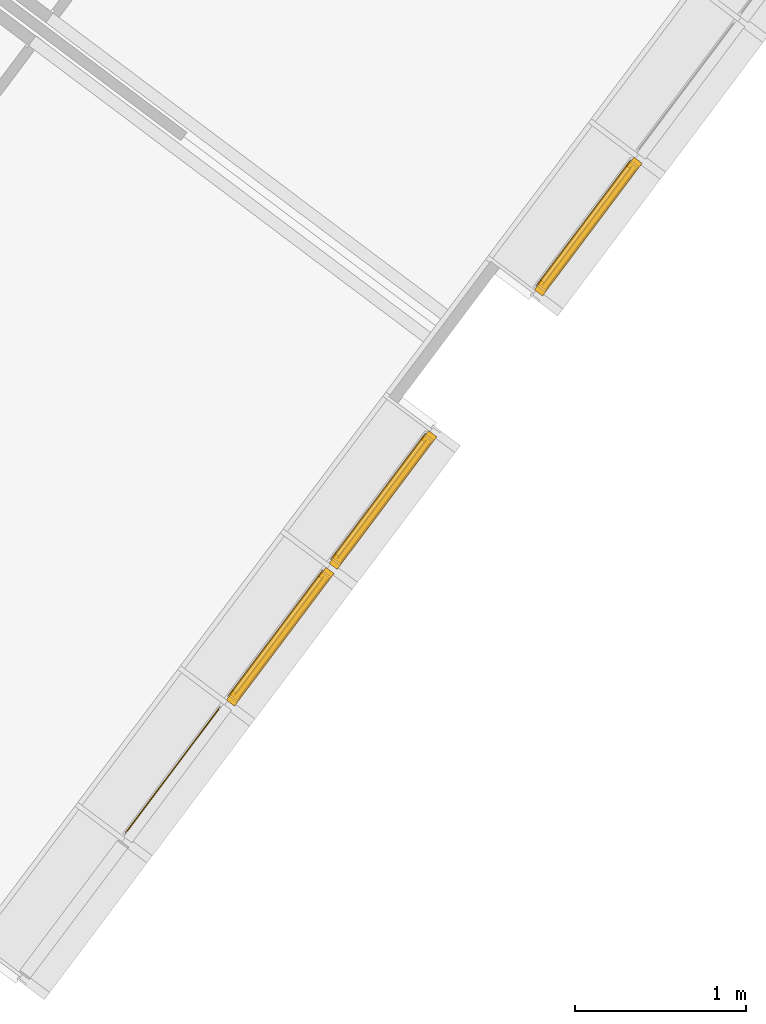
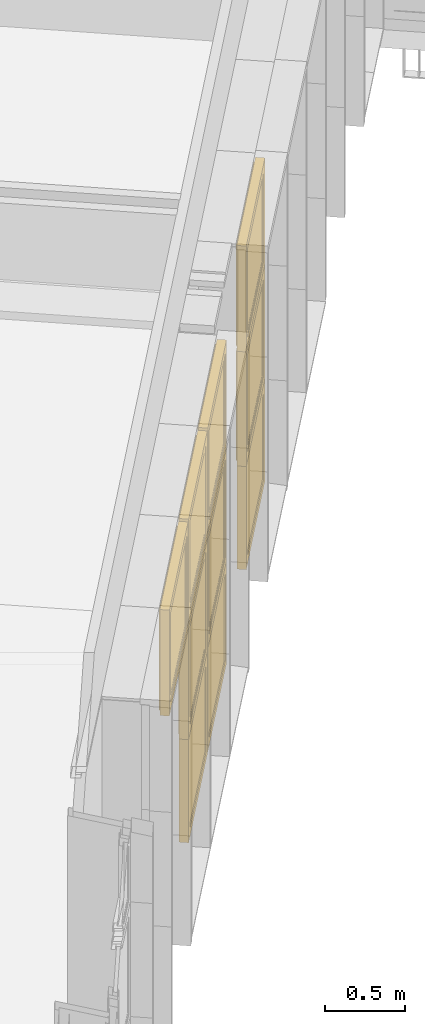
# One storey, part 188 of 243: 10 windows, 1 element without a shape of its own.
"""IFC2X3 building model written with IfcOpenShell, lengths in metres."""

from ifc_helpers import new_model, entity, si_unit, converted_unit, derived_unit, direction, frame, origin, place, context, subcontext, project, spatial, faceted_brep, source, transform, mapped, material, material_list, type_object, type_shapes, element, aggregate, save


model = new_model("IFC2X3")

# Units and contexts
model_context = context("Model", 3, precision=1e-05, world=origin(), true_north=direction((6.123031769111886e-17, 1.0)))
body_context = subcontext(model_context, "Body", "Model", "MODEL_VIEW")
ifc_project = project(units=[si_unit("LENGTHUNIT", "METRE"), si_unit("AREAUNIT", "SQUARE_METRE"), si_unit("VOLUMEUNIT", "CUBIC_METRE"), converted_unit("PLANEANGLEUNIT", "DEGREE", entity("IfcRatioMeasure", 0.017453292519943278), si_unit("PLANEANGLEUNIT", "RADIAN"), dimensions=[0, 0, 0, 0, 0, 0, 0]), si_unit("MASSUNIT", "GRAM", prefix="KILO"), derived_unit("MASSDENSITYUNIT", [(si_unit("MASSUNIT", "GRAM", prefix="KILO"), 1), (si_unit("LENGTHUNIT", "METRE"), -3)]), derived_unit("IONCONCENTRATIONUNIT", [(si_unit("MASSUNIT", "GRAM", prefix="KILO"), 1), (si_unit("LENGTHUNIT", "METRE"), -3)]), derived_unit("MOMENTOFINERTIAUNIT", [(si_unit("LENGTHUNIT", "METRE"), 4)]), si_unit("TIMEUNIT", "SECOND"), si_unit("FREQUENCYUNIT", "HERTZ"), si_unit("THERMODYNAMICTEMPERATUREUNIT", "DEGREE_CELSIUS"), derived_unit("THERMALTRANSMITTANCEUNIT", [(si_unit("MASSUNIT", "GRAM", prefix="KILO"), 1), (si_unit("THERMODYNAMICTEMPERATUREUNIT", "KELVIN"), -1), (si_unit("TIMEUNIT", "SECOND"), -3)]), derived_unit("THERMALCONDUCTANCEUNIT", [(si_unit("MASSUNIT", "GRAM", prefix="KILO"), 1), (si_unit("THERMODYNAMICTEMPERATUREUNIT", "KELVIN"), -1), (si_unit("TIMEUNIT", "SECOND"), -3), (si_unit("LENGTHUNIT", "METRE"), 1)]), derived_unit("VOLUMETRICFLOWRATEUNIT", [(si_unit("LENGTHUNIT", "METRE"), 3), (si_unit("TIMEUNIT", "SECOND"), -1)]), derived_unit("MASSFLOWRATEUNIT", [(si_unit("MASSUNIT", "GRAM", prefix="KILO"), 1), (si_unit("TIMEUNIT", "SECOND"), -1)]), derived_unit("ROTATIONALFREQUENCYUNIT", [(si_unit("TIMEUNIT", "SECOND"), -1)]), si_unit("ELECTRICCURRENTUNIT", "AMPERE"), si_unit("ELECTRICVOLTAGEUNIT", "VOLT"), si_unit("POWERUNIT", "WATT"), si_unit("FORCEUNIT", "NEWTON", prefix="KILO"), si_unit("ILLUMINANCEUNIT", "LUX"), si_unit("LUMINOUSFLUXUNIT", "LUMEN"), si_unit("LUMINOUSINTENSITYUNIT", "CANDELA"), derived_unit("USERDEFINED", [(si_unit("MASSUNIT", "GRAM", prefix="KILO"), -1), (si_unit("LENGTHUNIT", "METRE"), -2), (si_unit("TIMEUNIT", "SECOND"), 3), (si_unit("LUMINOUSFLUXUNIT", "LUMEN"), 1)]), derived_unit("USERDEFINED", [(si_unit("MASSUNIT", "GRAM", prefix="KILO"), 1), (si_unit("TIMEUNIT", "SECOND"), -3), (si_unit("LENGTHUNIT", "METRE"), 3), (si_unit("ELECTRICCURRENTUNIT", "AMPERE"), -2)]), derived_unit("SOUNDPOWERUNIT", [(si_unit("MASSUNIT", "GRAM", prefix="KILO"), 1), (si_unit("TIMEUNIT", "SECOND"), -3), (si_unit("LENGTHUNIT", "METRE"), 2)]), derived_unit("SOUNDPRESSUREUNIT", [(si_unit("MASSUNIT", "GRAM", prefix="KILO"), 1), (si_unit("LENGTHUNIT", "METRE"), -1), (si_unit("TIMEUNIT", "SECOND"), -2)]), derived_unit("LINEARVELOCITYUNIT", [(si_unit("LENGTHUNIT", "METRE"), 1), (si_unit("TIMEUNIT", "SECOND"), -1)]), si_unit("PRESSUREUNIT", "PASCAL"), derived_unit("USERDEFINED", [(si_unit("MASSUNIT", "GRAM", prefix="KILO"), 1), (si_unit("LENGTHUNIT", "METRE"), -2), (si_unit("TIMEUNIT", "SECOND"), -2)]), derived_unit("LINEARFORCEUNIT", [(si_unit("MASSUNIT", "GRAM", prefix="KILO"), 1), (si_unit("TIMEUNIT", "SECOND"), -2)]), derived_unit("PLANARFORCEUNIT", [(si_unit("MASSUNIT", "GRAM", prefix="KILO"), 1), (si_unit("LENGTHUNIT", "METRE"), -1), (si_unit("TIMEUNIT", "SECOND"), -2)]), derived_unit("SPECIFICHEATCAPACITYUNIT", [(si_unit("THERMODYNAMICTEMPERATUREUNIT", "KELVIN"), -1), (si_unit("LENGTHUNIT", "METRE"), 2), (si_unit("TIMEUNIT", "SECOND"), -2)]), derived_unit("HEATINGVALUEUNIT", [(si_unit("LENGTHUNIT", "METRE"), 2), (si_unit("TIMEUNIT", "SECOND"), -2)]), derived_unit("VAPORPERMEABILITYUNIT", [(si_unit("LENGTHUNIT", "METRE"), -1), (si_unit("TIMEUNIT", "SECOND"), 1)]), derived_unit("DYNAMICVISCOSITYUNIT", [(si_unit("MASSUNIT", "GRAM", prefix="KILO"), 1), (si_unit("TIMEUNIT", "SECOND"), -1), (si_unit("LENGTHUNIT", "METRE"), -1)]), derived_unit("THERMALEXPANSIONCOEFFICIENTUNIT", [(si_unit("THERMODYNAMICTEMPERATUREUNIT", "KELVIN"), -1)]), derived_unit("MODULUSOFELASTICITYUNIT", [(si_unit("MASSUNIT", "GRAM", prefix="KILO"), 1), (si_unit("LENGTHUNIT", "METRE"), -1), (si_unit("TIMEUNIT", "SECOND"), -2)]), derived_unit("ISOTHERMALMOISTURECAPACITYUNIT", [(si_unit("LENGTHUNIT", "METRE"), 3), (si_unit("MASSUNIT", "GRAM", prefix="KILO"), -1)]), derived_unit("MOISTUREDIFFUSIVITYUNIT", [(si_unit("TIMEUNIT", "SECOND"), -1), (si_unit("LENGTHUNIT", "METRE"), 2)])], contexts=[model_context])

# Site, building, storey
site_placement = place(None, frame((0.0, 0.0, 235.0), z_axis=(0.0, 0.0, 1.0), x_axis=(-0.7996477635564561, 0.6004693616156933, 0.0)))
site = spatial("IfcSite", under=ifc_project, at=site_placement, Name="Default", CompositionType="ELEMENT")
building_placement = place(site_placement, origin())
building = spatial("IfcBuilding", under=site, at=building_placement, CompositionType="ELEMENT")
storey_placement = place(building_placement, origin())
storey = spatial("IfcBuildingStorey", under=building, at=storey_placement, Name="P0- Escola", CompositionType="ELEMENT", Elevation=0.0)

# Curtain wall, windows
curtain_wall_type = type_object("IfcCurtainWallType", Name="Muro cortina:MC- EXT- MC2", PredefinedType="NOTDEFINED")
curtain_wall_placement = place(storey_placement, origin())
curtain_wall = element("IfcCurtainWall", 1, at=curtain_wall_placement, inside=storey, type_object=curtain_wall_type, Name="Muro cortina:MC- EXT- MC2", ObjectType="Muro cortina:MC- EXT- MC2")
ifc_material_1 = material(Name="_Vidre")
ifc_material_2 = material(Name="_Alumini- T1- Perfil")
ifc_material_list = material_list([ifc_material_1, ifc_material_2])
window_style_1 = type_object("IfcWindowStyle", Name="MC- Alu- Conjunt vidre fix- 62x60 cm:MC- Alu- Conjunt vidre fix- 62x60 cm", ConstructionType="NOTDEFINED", OperationType="NOTDEFINED", ParameterTakesPrecedence=False, Sizeable=False, material=ifc_material_list)
shared_shape_1 = source(origin(), body_context, "Body", "Brep", [
    faceted_brep([(0.4361932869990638, -0.007600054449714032, 0.048806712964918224), (0.4361932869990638, -0.03160022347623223, 0.048806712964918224), (-0.4361932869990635, -0.03160022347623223, 0.048806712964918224), (-0.4361932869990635, -0.007600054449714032, 0.048806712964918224), (0.4361932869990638, -0.007600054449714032, 0.7387000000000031), (-0.4361932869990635, -0.007600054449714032, 0.7387000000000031), (-0.4361932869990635, -0.03160022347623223, 0.7387000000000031), (0.4361932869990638, -0.03160022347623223, 0.7387000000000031)], [[[0, 1, 2, 3]], [[4, 0, 3, 5]], [[5, 3, 2, 6]], [[6, 2, 1, 7]], [[7, 1, 0, 4]], [[4, 5, 6, 7]]]),
    faceted_brep([(0.48499999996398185, -0.05999999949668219, 0.7877000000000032), (0.48499999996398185, -0.05999999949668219, 0.0), (0.48499999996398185, 0.0, 0.0), (0.48499999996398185, 0.0, 0.787700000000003), (-0.48499999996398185, 0.0, 0.7877000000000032), (-0.48499999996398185, 0.0, 0.0), (0.4221931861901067, 0.0, 0.7248931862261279), (-0.42219318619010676, 0.0, 0.724893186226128), (-0.4221931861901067, 0.0, 0.0628068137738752), (0.4221931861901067, 0.0, 0.06280681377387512), (-0.48499999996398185, -0.05999999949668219, 0.0), (-0.48499999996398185, -0.05999999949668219, 0.7877000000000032), (-0.42219603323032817, -0.05999999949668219, 0.7248960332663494), (0.42219603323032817, -0.05999999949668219, 0.7248960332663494), (0.42219603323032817, -0.05999999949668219, 0.0628039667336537), (-0.42219603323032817, -0.05999999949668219, 0.0628039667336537), (0.4221960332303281, -0.03160022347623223, 0.7248960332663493), (0.42219603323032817, -0.03160022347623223, 0.0628039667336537), (-0.42219603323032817, -0.03160022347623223, 0.06280396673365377), (-0.42219603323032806, -0.03160022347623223, 0.7248960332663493), (-0.43619328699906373, -0.03160022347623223, 0.738893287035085), (0.43619328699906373, -0.03160022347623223, 0.738893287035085), (0.43619328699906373, -0.03160022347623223, 0.048806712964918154), (-0.43619328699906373, -0.03160022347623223, 0.04880671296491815), (0.43619328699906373, -0.007600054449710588, 0.738893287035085), (0.43619328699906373, -0.007600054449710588, 0.04880671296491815), (-0.43619328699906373, -0.007600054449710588, 0.048806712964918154), (-0.43619328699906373, -0.007600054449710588, 0.738893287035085), (-0.42219318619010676, -0.007600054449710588, 0.724893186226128), (0.42219318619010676, -0.007600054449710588, 0.724893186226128), (0.42219318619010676, -0.007600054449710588, 0.06280681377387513), (-0.42219318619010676, -0.007600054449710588, 0.06280681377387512)], [[[0, 1, 2, 3]], [[4, 3, 2, 5], [6, 7, 8, 9]], [[1, 10, 5, 2]], [[0, 11, 10, 1], [12, 13, 14, 15]], [[16, 17, 14, 13]], [[17, 18, 15, 14]], [[16, 19, 18, 17], [20, 21, 22, 23]], [[24, 25, 22, 21]], [[25, 26, 23, 22]], [[24, 27, 26, 25], [28, 29, 30, 31]], [[6, 9, 30, 29]], [[9, 8, 31, 30]], [[10, 11, 4, 5]], [[18, 19, 12, 15]], [[26, 27, 20, 23]], [[8, 7, 28, 31]], [[11, 0, 3, 4]], [[19, 16, 13, 12]], [[27, 24, 21, 20]], [[7, 6, 29, 28]]], outer=[[True], [True, False], [True], [True, False], [True], [True], [False, True], [True], [True], [True, False], [True], [True], [True], [True], [True], [True], [True], [True], [True], [True]]),
])
type_shapes(window_style_1, [shared_shape_1])
window_1_placement = place(curtain_wall_placement, frame((53.74514768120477, -27.915191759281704, 0.03229999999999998), z_axis=(0.0, 0.0, 1.0), x_axis=(0.0, 1.0, 0.0)))
window_1 = element("IfcWindow", 2, at=window_1_placement, type_object=window_style_1, material=ifc_material_list, Name="MC- Alu- Conjunt vidre fix- 62x60 cm:MC- Alu- Conjunt vidre fix- 62x60 cm", ObjectType="MC- Alu- Conjunt vidre fix- 62x60 cm:MC- Alu- Conjunt vidre fix- 62x60 cm", OverallHeight=0.7877000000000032, OverallWidth=0.9699999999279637, context=body_context, shape_type="MappedRepresentation", body=[
    mapped(shared_shape_1, transform((0.0, 0.0, 0.0), scale=1.0)),
])
window_2_placement = place(curtain_wall_placement, frame((53.74514768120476, -28.9151917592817, 0.03229999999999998), z_axis=(0.0, 0.0, 1.0), x_axis=(0.0, 1.0, 0.0)))
window_2 = element("IfcWindow", 3, at=window_2_placement, type_object=window_style_1, material=ifc_material_list, Name="MC- Alu- Conjunt vidre fix- 62x60 cm:MC- Alu- Conjunt vidre fix- 62x60 cm", ObjectType="MC- Alu- Conjunt vidre fix- 62x60 cm:MC- Alu- Conjunt vidre fix- 62x60 cm", OverallHeight=0.7877000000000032, OverallWidth=0.9699999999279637, context=body_context, shape_type="MappedRepresentation", body=[
    mapped(shared_shape_1, transform((0.0, 0.0, 0.0), scale=1.0)),
])
window_3_placement = place(curtain_wall_placement, frame((53.74514768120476, -30.91519175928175, 0.03229999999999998), z_axis=(0.0, 0.0, 1.0), x_axis=(0.0, 1.0, 0.0)))
window_3 = element("IfcWindow", 4, at=window_3_placement, type_object=window_style_1, material=ifc_material_list, Name="MC- Alu- Conjunt vidre fix- 62x60 cm:MC- Alu- Conjunt vidre fix- 62x60 cm", ObjectType="MC- Alu- Conjunt vidre fix- 62x60 cm:MC- Alu- Conjunt vidre fix- 62x60 cm", OverallHeight=0.7877000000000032, OverallWidth=0.9699999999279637, context=body_context, shape_type="MappedRepresentation", body=[
    mapped(shared_shape_1, transform((0.0, 0.0, 0.0), scale=1.0)),
])
window_style_2 = type_object("IfcWindowStyle", Name="MC- Alu- Conjunt finestra basculant- 68x68 cm:MC- Alu- Conjunt finestra basculant- 68x68 cm", ConstructionType="NOTDEFINED", OperationType="NOTDEFINED", ParameterTakesPrecedence=False, Sizeable=False, material=ifc_material_list)
shared_shape_2 = source(origin(), body_context, "Body", "Brep", [
    faceted_brep([(0.43291170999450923, -0.03559830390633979, 0.051999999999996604), (-0.43291170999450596, -0.03559830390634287, 0.051999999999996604), (-0.43291170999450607, -0.011598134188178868, 0.051999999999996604), (0.43291170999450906, -0.011598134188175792, 0.051999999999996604), (0.43291170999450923, -0.035598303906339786, 0.8228027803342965), (0.43291170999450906, -0.011598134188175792, 0.8228027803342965), (-0.43291170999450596, -0.011598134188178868, 0.8228027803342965), (-0.43291170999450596, -0.03559830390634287, 0.8228027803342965)], [[[0, 1, 2, 3]], [[4, 0, 3, 5]], [[5, 3, 2, 6]], [[6, 2, 1, 7]], [[7, 1, 0, 4]], [[4, 5, 6, 7]]]),
    faceted_brep([(-0.4172108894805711, -0.009998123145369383, 0.8071019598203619), (-0.4172108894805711, -0.00999812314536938, 0.06789804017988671), (-0.4172108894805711, -0.007998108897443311, 0.06789804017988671), (-0.4172108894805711, -0.007998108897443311, 0.8071019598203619), (-0.44610892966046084, -0.007998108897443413, 0.8360000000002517), (0.44610892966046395, -0.007998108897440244, 0.8360000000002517), (0.44610892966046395, -0.007998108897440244, 0.03899999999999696), (-0.44610892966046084, -0.007998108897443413, 0.03899999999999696), (0.4172108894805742, -0.007998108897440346, 0.8071019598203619), (0.4172108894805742, -0.007998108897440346, 0.06789804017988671), (0.4172108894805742, -0.009998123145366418, 0.06789804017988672), (0.4172108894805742, -0.009998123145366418, 0.8071019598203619), (0.4329117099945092, -0.00999812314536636, 0.8228027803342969), (-0.43291170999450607, -0.009998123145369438, 0.8228027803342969), (-0.43291170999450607, -0.009998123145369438, 0.05219721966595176), (0.4329117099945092, -0.00999812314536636, 0.052197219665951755), (-0.4329117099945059, -0.04079986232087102, 0.8228027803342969), (-0.4329117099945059, -0.04079986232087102, 0.052197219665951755), (0.4329117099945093, -0.04079986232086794, 0.05219721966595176), (0.4329117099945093, -0.04079986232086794, 0.8228027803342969), (0.41721088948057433, -0.040799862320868, 0.8071019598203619), (-0.41721088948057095, -0.04079986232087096, 0.8071019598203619), (-0.41721088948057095, -0.04079986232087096, 0.06789804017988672), (0.41721088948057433, -0.040799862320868, 0.06789804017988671), (-0.4172108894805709, -0.06800005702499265, 0.8071019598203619), (-0.4172108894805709, -0.06800005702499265, 0.06789804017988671), (0.4172108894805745, -0.0680000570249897, 0.06789804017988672), (0.4172108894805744, -0.0680000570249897, 0.8071019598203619), (0.4636128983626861, -0.06800005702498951, 0.8535039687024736), (-0.4636128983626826, -0.06800005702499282, 0.8535039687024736), (-0.4636128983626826, -0.06800005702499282, 0.021496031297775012), (0.4636128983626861, -0.06800005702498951, 0.021496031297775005), (-0.4636128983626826, -0.0645000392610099, 0.8535039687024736), (-0.4636128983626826, -0.06450003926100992, 0.021496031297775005), (0.4636128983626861, -0.06450003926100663, 0.021496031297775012), (0.4636128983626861, -0.06450003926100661, 0.8535039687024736), (0.44610892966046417, -0.06450003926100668, 0.8360000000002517), (-0.4461089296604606, -0.06450003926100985, 0.8360000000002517), (-0.4461089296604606, -0.06450003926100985, 0.03899999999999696), (0.44610892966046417, -0.06450003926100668, 0.038999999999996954)], [[[0, 1, 2, 3]], [[4, 5, 6, 7], [8, 3, 2, 9]], [[1, 10, 9, 2]], [[0, 11, 10, 1], [12, 13, 14, 15]], [[16, 17, 14, 13]], [[17, 18, 15, 14]], [[16, 19, 18, 17], [20, 21, 22, 23]], [[24, 25, 22, 21]], [[25, 26, 23, 22]], [[24, 27, 26, 25], [28, 29, 30, 31]], [[32, 33, 30, 29]], [[33, 34, 31, 30]], [[32, 35, 34, 33], [36, 37, 38, 39]], [[4, 7, 38, 37]], [[7, 6, 39, 38]], [[10, 11, 8, 9]], [[18, 19, 12, 15]], [[26, 27, 20, 23]], [[34, 35, 28, 31]], [[6, 5, 36, 39]], [[11, 0, 3, 8]], [[19, 16, 13, 12]], [[27, 24, 21, 20]], [[35, 32, 29, 28]], [[5, 4, 37, 36]]], outer=[[True], [True, False], [True], [False, True], [True], [True], [True, False], [True], [True], [False, True], [True], [True], [True, False], [True], [True], [True], [True], [True], [True], [True], [True], [True], [True], [True], [True]]),
    faceted_brep([(0.42219318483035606, 0.0, 0.8121931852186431), (0.42219318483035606, 0.0, 0.06280681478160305), (0.42219318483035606, -0.0040000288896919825, 0.06280681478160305), (0.42219318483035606, -0.0040000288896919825, 0.8121931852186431), (-0.42219318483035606, -0.0040000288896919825, 0.8121931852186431), (-0.42219318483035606, -0.0040000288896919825, 0.06280681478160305), (0.4575998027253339, -0.0040000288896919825, 0.8475998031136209), (-0.4575998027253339, -0.0040000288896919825, 0.8475998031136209), (-0.4575998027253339, -0.0040000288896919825, 0.027400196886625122), (0.4575998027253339, -0.0040000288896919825, 0.02740019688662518), (-0.42219318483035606, 0.0, 0.06280681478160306), (-0.42219318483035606, 0.0, 0.8121931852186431), (-0.48499999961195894, 0.0, 0.875000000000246), (0.48499999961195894, 0.0, 0.875000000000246), (0.48499999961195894, 0.0, 0.0), (-0.48499999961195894, 0.0, 0.0), (0.48499999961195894, -0.05999999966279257, 0.875000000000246), (0.48499999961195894, -0.05999999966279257, 0.0), (-0.48499999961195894, -0.05999999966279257, 0.0), (-0.48499999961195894, -0.05999999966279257, 0.875000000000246), (-0.4575998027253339, -0.05999999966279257, 0.8475998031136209), (0.4575998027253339, -0.05999999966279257, 0.8475998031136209), (0.4575998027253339, -0.05999999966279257, 0.027400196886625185), (-0.4575998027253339, -0.05999999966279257, 0.02740019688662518)], [[[0, 1, 2, 3]], [[4, 3, 2, 5], [6, 7, 8, 9]], [[1, 10, 5, 2]], [[0, 11, 10, 1], [12, 13, 14, 15]], [[16, 17, 14, 13]], [[17, 18, 15, 14]], [[16, 19, 18, 17], [20, 21, 22, 23]], [[6, 9, 22, 21]], [[9, 8, 23, 22]], [[10, 11, 4, 5]], [[18, 19, 12, 15]], [[8, 7, 20, 23]], [[11, 0, 3, 4]], [[19, 16, 13, 12]], [[7, 6, 21, 20]]], outer=[[True], [False, True], [True], [False, True], [True], [True], [True, False], [True], [True], [True], [True], [True], [True], [True], [True]]),
])
type_shapes(window_style_2, [shared_shape_2])
window_4_placement = place(curtain_wall_placement, frame((53.74514768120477, -27.915191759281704, 0.8200000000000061), z_axis=(0.0, 0.0, 1.0), x_axis=(0.0, 1.0, 0.0)))
window_4 = element("IfcWindow", 5, at=window_4_placement, type_object=window_style_2, material=ifc_material_list, Name="MC- Alu- Conjunt finestra basculant- 68x68 cm:MC- Alu- Conjunt finestra basculant- 68x68 cm", ObjectType="MC- Alu- Conjunt finestra basculant- 68x68 cm:MC- Alu- Conjunt finestra basculant- 68x68 cm", OverallHeight=0.8750000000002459, OverallWidth=0.9699999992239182, context=body_context, shape_type="MappedRepresentation", body=[
    mapped(shared_shape_2, transform((0.0, 0.0, 0.0), scale=1.0)),
])
window_5_placement = place(curtain_wall_placement, frame((53.74514768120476, -28.9151917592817, 0.8200000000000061), z_axis=(0.0, 0.0, 1.0), x_axis=(0.0, 1.0, 0.0)))
window_5 = element("IfcWindow", 6, at=window_5_placement, type_object=window_style_2, material=ifc_material_list, Name="MC- Alu- Conjunt finestra basculant- 68x68 cm:MC- Alu- Conjunt finestra basculant- 68x68 cm", ObjectType="MC- Alu- Conjunt finestra basculant- 68x68 cm:MC- Alu- Conjunt finestra basculant- 68x68 cm", OverallHeight=0.8750000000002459, OverallWidth=0.9699999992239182, context=body_context, shape_type="MappedRepresentation", body=[
    mapped(shared_shape_2, transform((0.0, 0.0, 0.0), scale=1.0)),
])
window_6_placement = place(curtain_wall_placement, frame((53.74514768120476, -30.91519175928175, 0.8200000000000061), z_axis=(0.0, 0.0, 1.0), x_axis=(0.0, 1.0, 0.0)))
window_6 = element("IfcWindow", 7, at=window_6_placement, type_object=window_style_2, material=ifc_material_list, Name="MC- Alu- Conjunt finestra basculant- 68x68 cm:MC- Alu- Conjunt finestra basculant- 68x68 cm", ObjectType="MC- Alu- Conjunt finestra basculant- 68x68 cm:MC- Alu- Conjunt finestra basculant- 68x68 cm", OverallHeight=0.8750000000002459, OverallWidth=0.9699999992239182, context=body_context, shape_type="MappedRepresentation", body=[
    mapped(shared_shape_2, transform((0.0, 0.0, 0.0), scale=1.0)),
])
window_style_3 = type_object("IfcWindowStyle", Name="MC- Alu- Conjunt finestra basculant- 68x68 cm:MC- Alu- Conjunt finestra basculant- 68x68 cm", ConstructionType="NOTDEFINED", OperationType="NOTDEFINED", ParameterTakesPrecedence=False, Sizeable=False, material=ifc_material_list)
shared_shape_3 = source(origin(), body_context, "Body", "Brep", [
    faceted_brep([(0.432911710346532, -0.03559830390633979, 0.051999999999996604), (-0.43291171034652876, -0.03559830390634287, 0.051999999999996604), (-0.4329117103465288, -0.011598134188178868, 0.051999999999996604), (0.43291171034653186, -0.011598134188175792, 0.051999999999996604), (0.432911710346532, -0.035598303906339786, 0.7565527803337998), (0.43291171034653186, -0.011598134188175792, 0.7565527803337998), (-0.43291171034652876, -0.011598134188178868, 0.7565527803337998), (-0.43291171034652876, -0.03559830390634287, 0.7565527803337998)], [[[0, 1, 2, 3]], [[4, 0, 3, 5]], [[5, 3, 2, 6]], [[6, 2, 1, 7]], [[7, 1, 0, 4]], [[4, 5, 6, 7]]]),
    faceted_brep([(-0.41721088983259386, -0.009998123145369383, 0.7408519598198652), (-0.41721088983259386, -0.00999812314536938, 0.06789804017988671), (-0.41721088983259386, -0.007998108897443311, 0.06789804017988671), (-0.41721088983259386, -0.007998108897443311, 0.7408519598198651), (-0.4461089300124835, -0.007998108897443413, 0.7697499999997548), (0.44610893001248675, -0.007998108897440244, 0.7697499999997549), (0.4461089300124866, -0.007998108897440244, 0.03899999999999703), (-0.44610893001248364, -0.007998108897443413, 0.03899999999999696), (0.41721088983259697, -0.007998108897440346, 0.7408519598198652), (0.41721088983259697, -0.007998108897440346, 0.06789804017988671), (0.41721088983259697, -0.009998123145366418, 0.06789804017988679), (0.41721088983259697, -0.009998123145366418, 0.7408519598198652), (0.4329117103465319, -0.00999812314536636, 0.7565527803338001), (-0.4329117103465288, -0.009998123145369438, 0.7565527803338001), (-0.4329117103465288, -0.009998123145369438, 0.05219721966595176), (0.4329117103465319, -0.00999812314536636, 0.052197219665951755), (-0.4329117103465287, -0.04079986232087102, 0.7565527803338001), (-0.4329117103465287, -0.04079986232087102, 0.052197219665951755), (0.4329117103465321, -0.04079986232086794, 0.05219721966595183), (0.4329117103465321, -0.04079986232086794, 0.7565527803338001), (0.41721088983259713, -0.040799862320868, 0.7408519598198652), (-0.41721088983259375, -0.04079986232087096, 0.7408519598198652), (-0.41721088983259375, -0.04079986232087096, 0.06789804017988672), (0.41721088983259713, -0.040799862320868, 0.06789804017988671), (-0.4172108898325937, -0.06800005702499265, 0.7408519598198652), (-0.4172108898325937, -0.06800005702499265, 0.06789804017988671), (0.41721088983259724, -0.0680000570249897, 0.06789804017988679), (0.4172108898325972, -0.0680000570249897, 0.7408519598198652), (0.4636128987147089, -0.06800005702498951, 0.7872539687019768), (-0.46361289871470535, -0.06800005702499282, 0.7872539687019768), (-0.46361289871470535, -0.06800005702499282, 0.021496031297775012), (0.4636128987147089, -0.06800005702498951, 0.021496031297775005), (-0.46361289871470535, -0.0645000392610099, 0.7872539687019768), (-0.46361289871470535, -0.06450003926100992, 0.021496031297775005), (0.4636128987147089, -0.06450003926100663, 0.02149603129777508), (0.4636128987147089, -0.06450003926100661, 0.7872539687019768), (0.4461089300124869, -0.06450003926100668, 0.7697499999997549), (-0.4461089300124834, -0.06450003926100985, 0.7697499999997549), (-0.4461089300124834, -0.06450003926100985, 0.03899999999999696), (0.4461089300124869, -0.06450003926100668, 0.038999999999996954)], [[[0, 1, 2, 3]], [[4, 5, 6, 7], [8, 3, 2, 9]], [[1, 10, 9, 2]], [[0, 11, 10, 1], [12, 13, 14, 15]], [[16, 17, 14, 13]], [[17, 18, 15, 14]], [[16, 19, 18, 17], [20, 21, 22, 23]], [[24, 25, 22, 21]], [[25, 26, 23, 22]], [[24, 27, 26, 25], [28, 29, 30, 31]], [[32, 33, 30, 29]], [[33, 34, 31, 30]], [[32, 35, 34, 33], [36, 37, 38, 39]], [[4, 7, 38, 37]], [[7, 6, 39, 38]], [[10, 11, 8, 9]], [[18, 19, 12, 15]], [[26, 27, 20, 23]], [[34, 35, 28, 31]], [[6, 5, 36, 39]], [[11, 0, 3, 8]], [[19, 16, 13, 12]], [[27, 24, 21, 20]], [[35, 32, 29, 28]], [[5, 4, 37, 36]]], outer=[[True], [True, False], [True], [False, True], [True], [True], [True, False], [True], [True], [False, True], [True], [True], [True, False], [True], [True], [True], [True], [True], [True], [True], [True], [True], [True], [True], [True]]),
    faceted_brep([(0.4221931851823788, 0.0, 0.7459431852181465), (0.4221931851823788, 0.0, 0.06280681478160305), (0.4221931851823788, -0.0040000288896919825, 0.06280681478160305), (0.4221931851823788, -0.0040000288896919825, 0.7459431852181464), (-0.4221931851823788, -0.0040000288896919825, 0.7459431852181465), (-0.4221931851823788, -0.0040000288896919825, 0.06280681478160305), (0.4575998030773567, -0.0040000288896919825, 0.7813498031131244), (-0.4575998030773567, -0.0040000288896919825, 0.7813498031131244), (-0.4575998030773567, -0.0040000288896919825, 0.027400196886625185), (0.4575998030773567, -0.0040000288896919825, 0.02740019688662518), (-0.4221931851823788, 0.0, 0.06280681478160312), (-0.4221931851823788, 0.0, 0.7459431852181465), (-0.48499999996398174, 0.0, 0.8087499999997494), (0.48499999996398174, 0.0, 0.8087499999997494), (0.48499999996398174, 0.0, 0.0), (-0.48499999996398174, 0.0, 0.0), (0.48499999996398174, -0.05999999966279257, 0.8087499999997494), (0.48499999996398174, -0.05999999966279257, 0.0), (-0.48499999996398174, -0.05999999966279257, 0.0), (-0.48499999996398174, -0.05999999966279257, 0.8087499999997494), (-0.4575998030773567, -0.05999999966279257, 0.7813498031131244), (0.4575998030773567, -0.05999999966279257, 0.7813498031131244), (0.4575998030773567, -0.05999999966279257, 0.027400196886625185), (-0.4575998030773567, -0.05999999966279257, 0.02740019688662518)], [[[0, 1, 2, 3]], [[4, 3, 2, 5], [6, 7, 8, 9]], [[1, 10, 5, 2]], [[0, 11, 10, 1], [12, 13, 14, 15]], [[16, 17, 14, 13]], [[17, 18, 15, 14]], [[16, 19, 18, 17], [20, 21, 22, 23]], [[6, 9, 22, 21]], [[9, 8, 23, 22]], [[10, 11, 4, 5]], [[18, 19, 12, 15]], [[8, 7, 20, 23]], [[11, 0, 3, 4]], [[19, 16, 13, 12]], [[7, 6, 21, 20]]], outer=[[True], [False, True], [True], [False, True], [True], [True], [True, False], [True], [True], [True], [True], [True], [True], [True], [True]]),
])
type_shapes(window_style_3, [shared_shape_3])
window_7_placement = place(curtain_wall_placement, frame((53.74514768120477, -26.915191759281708, 1.6950000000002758), z_axis=(0.0, 0.0, 1.0), x_axis=(0.0, 1.0, 0.0)))
window_7 = element("IfcWindow", 8, at=window_7_placement, type_object=window_style_3, material=ifc_material_list, Name="MC- Alu- Conjunt finestra basculant- 68x68 cm:MC- Alu- Conjunt finestra basculant- 68x68 cm", ObjectType="MC- Alu- Conjunt finestra basculant- 68x68 cm:MC- Alu- Conjunt finestra basculant- 68x68 cm", OverallHeight=0.8087499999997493, OverallWidth=0.9699999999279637, context=body_context, shape_type="MappedRepresentation", body=[
    mapped(shared_shape_3, transform((0.0, 0.0, 0.0), scale=1.0)),
])
window_8_placement = place(curtain_wall_placement, frame((53.74514768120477, -27.915191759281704, 1.6950000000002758), z_axis=(0.0, 0.0, 1.0), x_axis=(0.0, 1.0, 0.0)))
window_8 = element("IfcWindow", 9, at=window_8_placement, type_object=window_style_3, material=ifc_material_list, Name="MC- Alu- Conjunt finestra basculant- 68x68 cm:MC- Alu- Conjunt finestra basculant- 68x68 cm", ObjectType="MC- Alu- Conjunt finestra basculant- 68x68 cm:MC- Alu- Conjunt finestra basculant- 68x68 cm", OverallHeight=0.8087499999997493, OverallWidth=0.9699999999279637, context=body_context, shape_type="MappedRepresentation", body=[
    mapped(shared_shape_3, transform((0.0, 0.0, 0.0), scale=1.0)),
])
window_9_placement = place(curtain_wall_placement, frame((53.74514768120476, -28.9151917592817, 1.6950000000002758), z_axis=(0.0, 0.0, 1.0), x_axis=(0.0, 1.0, 0.0)))
window_9 = element("IfcWindow", 10, at=window_9_placement, type_object=window_style_3, material=ifc_material_list, Name="MC- Alu- Conjunt finestra basculant- 68x68 cm:MC- Alu- Conjunt finestra basculant- 68x68 cm", ObjectType="MC- Alu- Conjunt finestra basculant- 68x68 cm:MC- Alu- Conjunt finestra basculant- 68x68 cm", OverallHeight=0.8087499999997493, OverallWidth=0.9699999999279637, context=body_context, shape_type="MappedRepresentation", body=[
    mapped(shared_shape_3, transform((0.0, 0.0, 0.0), scale=1.0)),
])
window_10_placement = place(curtain_wall_placement, frame((53.74514768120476, -30.91519175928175, 1.6950000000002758), z_axis=(0.0, 0.0, 1.0), x_axis=(0.0, 1.0, 0.0)))
window_10 = element("IfcWindow", 11, at=window_10_placement, type_object=window_style_3, material=ifc_material_list, Name="MC- Alu- Conjunt finestra basculant- 68x68 cm:MC- Alu- Conjunt finestra basculant- 68x68 cm", ObjectType="MC- Alu- Conjunt finestra basculant- 68x68 cm:MC- Alu- Conjunt finestra basculant- 68x68 cm", OverallHeight=0.8087499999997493, OverallWidth=0.9699999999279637, context=body_context, shape_type="MappedRepresentation", body=[
    mapped(shared_shape_3, transform((0.0, 0.0, 0.0), scale=1.0)),
])
aggregate(curtain_wall, [window_1, window_2, window_3, window_4, window_5, window_6, window_7, window_8, window_9, window_10])

save(model, "model.ifc")
